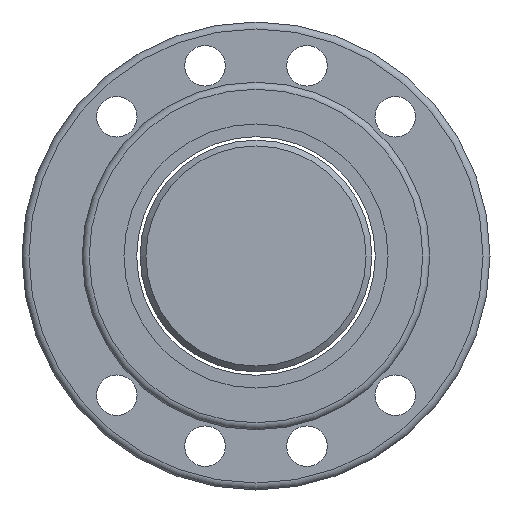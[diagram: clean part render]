
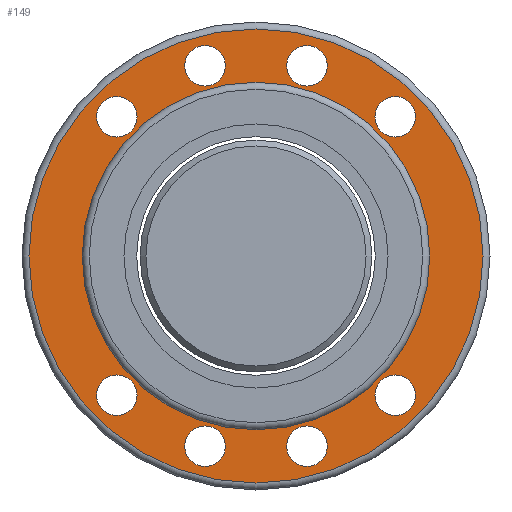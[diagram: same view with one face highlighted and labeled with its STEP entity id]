
A CAD part, left-side view. The second image highlights one B-rep face of the part: STEP entity #149.
In plain terms, the highlighted planar face has unit normal (-1, 0, 0).
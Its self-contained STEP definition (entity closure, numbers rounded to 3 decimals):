
#116=PLANE('',#689);
#131=FACE_OUTER_BOUND('',#316,.T.);
#149=ADVANCED_FACE('',(#218,#219,#220,#221,#222,#223,#224,#225,#226,#131),
#116,.F.);
#218=FACE_BOUND('',#307,.T.);
#219=FACE_BOUND('',#308,.T.);
#220=FACE_BOUND('',#309,.T.);
#221=FACE_BOUND('',#310,.T.);
#222=FACE_BOUND('',#311,.T.);
#223=FACE_BOUND('',#312,.T.);
#224=FACE_BOUND('',#313,.T.);
#225=FACE_BOUND('',#314,.T.);
#226=FACE_BOUND('',#315,.T.);
#307=EDGE_LOOP('',(#413));
#308=EDGE_LOOP('',(#414));
#309=EDGE_LOOP('',(#415));
#310=EDGE_LOOP('',(#416));
#311=EDGE_LOOP('',(#417));
#312=EDGE_LOOP('',(#418));
#313=EDGE_LOOP('',(#419));
#314=EDGE_LOOP('',(#420));
#315=EDGE_LOOP('',(#421));
#316=EDGE_LOOP('',(#422));
#413=ORIENTED_EDGE('',*,*,#572,.F.);
#414=ORIENTED_EDGE('',*,*,#573,.F.);
#415=ORIENTED_EDGE('',*,*,#574,.F.);
#416=ORIENTED_EDGE('',*,*,#575,.F.);
#417=ORIENTED_EDGE('',*,*,#576,.F.);
#418=ORIENTED_EDGE('',*,*,#577,.F.);
#419=ORIENTED_EDGE('',*,*,#578,.F.);
#420=ORIENTED_EDGE('',*,*,#579,.F.);
#421=ORIENTED_EDGE('',*,*,#570,.F.);
#422=ORIENTED_EDGE('',*,*,#580,.T.);
#517=VERTEX_POINT('',#978);
#519=VERTEX_POINT('',#983);
#520=VERTEX_POINT('',#985);
#521=VERTEX_POINT('',#987);
#522=VERTEX_POINT('',#989);
#523=VERTEX_POINT('',#991);
#524=VERTEX_POINT('',#993);
#525=VERTEX_POINT('',#995);
#526=VERTEX_POINT('',#997);
#527=VERTEX_POINT('',#999);
#570=EDGE_CURVE('',#517,#517,#623,.T.);
#572=EDGE_CURVE('',#519,#519,#625,.T.);
#573=EDGE_CURVE('',#520,#520,#626,.T.);
#574=EDGE_CURVE('',#521,#521,#627,.T.);
#575=EDGE_CURVE('',#522,#522,#628,.T.);
#576=EDGE_CURVE('',#523,#523,#629,.T.);
#577=EDGE_CURVE('',#524,#524,#630,.T.);
#578=EDGE_CURVE('',#525,#525,#631,.T.);
#579=EDGE_CURVE('',#526,#526,#632,.T.);
#580=EDGE_CURVE('',#527,#527,#633,.T.);
#623=CIRCLE('',#677,75.);
#625=CIRCLE('',#680,8.75);
#626=CIRCLE('',#681,8.75);
#627=CIRCLE('',#682,8.75);
#628=CIRCLE('',#683,8.75);
#629=CIRCLE('',#684,8.75);
#630=CIRCLE('',#685,8.75);
#631=CIRCLE('',#686,8.75);
#632=CIRCLE('',#687,8.75);
#633=CIRCLE('',#688,98.);
#677=AXIS2_PLACEMENT_3D('',#977,#778,#779);
#680=AXIS2_PLACEMENT_3D('',#982,#784,#785);
#681=AXIS2_PLACEMENT_3D('',#984,#786,#787);
#682=AXIS2_PLACEMENT_3D('',#986,#788,#789);
#683=AXIS2_PLACEMENT_3D('',#988,#790,#791);
#684=AXIS2_PLACEMENT_3D('',#990,#792,#793);
#685=AXIS2_PLACEMENT_3D('',#992,#794,#795);
#686=AXIS2_PLACEMENT_3D('',#994,#796,#797);
#687=AXIS2_PLACEMENT_3D('',#996,#798,#799);
#688=AXIS2_PLACEMENT_3D('',#998,#800,#801);
#689=AXIS2_PLACEMENT_3D('',#1000,#802,#803);
#778=DIRECTION('',(-1.,0.,0.));
#779=DIRECTION('',(0.,-1.,0.));
#784=DIRECTION('',(-1.,0.,0.));
#785=DIRECTION('',(0.,0.,1.));
#786=DIRECTION('',(-1.,0.,0.));
#787=DIRECTION('',(0.,0.5,0.866));
#788=DIRECTION('',(-1.,0.,0.));
#789=DIRECTION('',(0.,0.866,0.5));
#790=DIRECTION('',(-1.,0.,0.));
#791=DIRECTION('',(0.,1.,0.));
#792=DIRECTION('',(-1.,0.,0.));
#793=DIRECTION('',(0.,0.,-1.));
#794=DIRECTION('',(-1.,0.,0.));
#795=DIRECTION('',(0.,-0.5,-0.866));
#796=DIRECTION('',(-1.,0.,0.));
#797=DIRECTION('',(0.,-0.866,-0.5));
#798=DIRECTION('',(-1.,0.,0.));
#799=DIRECTION('',(0.,-1.,0.));
#800=DIRECTION('',(-1.,0.,0.));
#801=DIRECTION('',(0.,-1.,0.));
#802=DIRECTION('',(1.,0.,0.));
#803=DIRECTION('',(0.,1.,0.));
#977=CARTESIAN_POINT('',(-50.,0.,0.));
#978=CARTESIAN_POINT('',(-50.,-75.,0.));
#982=CARTESIAN_POINT('',(-50.,60.1,-60.1));
#983=CARTESIAN_POINT('',(-50.,60.1,-51.35));
#984=CARTESIAN_POINT('',(-50.,21.998,-82.098));
#985=CARTESIAN_POINT('',(-50.,26.373,-74.52));
#986=CARTESIAN_POINT('',(-50.,-21.998,-82.098));
#987=CARTESIAN_POINT('',(-50.,-14.42,-77.723));
#988=CARTESIAN_POINT('',(-50.,-60.1,-60.1));
#989=CARTESIAN_POINT('',(-50.,-51.35,-60.1));
#990=CARTESIAN_POINT('',(-50.,-60.1,60.1));
#991=CARTESIAN_POINT('',(-50.,-60.1,51.35));
#992=CARTESIAN_POINT('',(-50.,-21.998,82.098));
#993=CARTESIAN_POINT('',(-50.,-26.373,74.52));
#994=CARTESIAN_POINT('',(-50.,21.998,82.098));
#995=CARTESIAN_POINT('',(-50.,14.42,77.723));
#996=CARTESIAN_POINT('',(-50.,60.1,60.1));
#997=CARTESIAN_POINT('',(-50.,51.35,60.1));
#998=CARTESIAN_POINT('',(-50.,0.,0.));
#999=CARTESIAN_POINT('',(-50.,-98.,0.));
#1000=CARTESIAN_POINT('',(-50.,86.5,0.));
